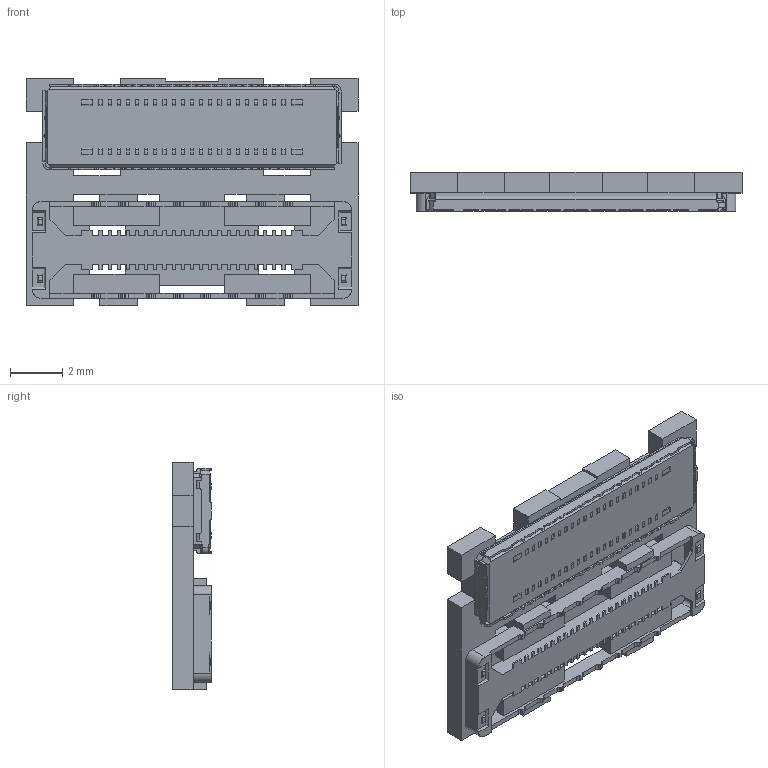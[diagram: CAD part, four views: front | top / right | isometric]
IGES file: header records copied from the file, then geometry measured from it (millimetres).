
Start section: SolidWorks IGES file using analytic representation for surfaces
Global section: file name: C:\3dwork\Baba\20230721 NOVA25-HDP WITH CAP 2IN1 HIMƒ‚ƒfƒ‹\3Dƒ‚ƒfƒ‹—p\STEP&IGES\21001-042E-01C NOVASTACK 35-HDP WITH CAP 2-IN-1 IGES R1 ALL.IGS; native system: SolidWorks 2020; preprocessor: SolidWorks 2020; author: 83109; date: 230801.134531; units: millimetre
Bounding box: 12.7 x 1.48 x 8.69 mm (x, y, z)
Surface area: 366.8 mm2 (no closed solid volume)
Topology: 0 solids, 0 shells, 1108 faces, 6900 edges, 6900 vertices
Faces by surface type: bspline 804, revolution 304
